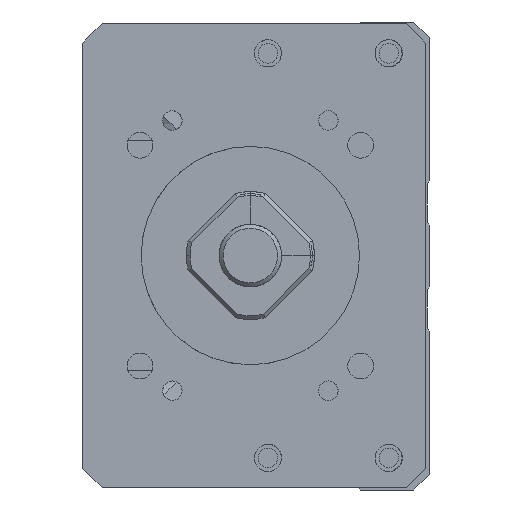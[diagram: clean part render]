
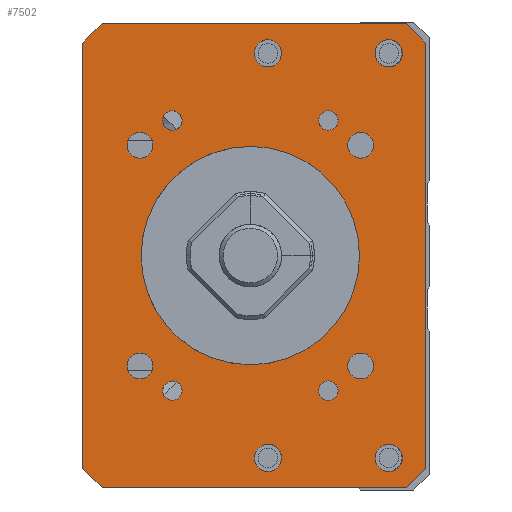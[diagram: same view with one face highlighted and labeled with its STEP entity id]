
A CAD part, left-side view. The second image highlights one B-rep face of the part: STEP entity #7502.
In plain terms, the highlighted planar face has unit normal (-1, 0, 0).
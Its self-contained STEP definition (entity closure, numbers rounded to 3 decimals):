
#4552=CIRCLE('',#14814,14.);
#4561=CIRCLE('',#14825,1.65);
#4562=CIRCLE('',#14826,1.65);
#4563=CIRCLE('',#14827,1.65);
#4564=CIRCLE('',#14828,1.65);
#4565=CIRCLE('',#14829,1.25);
#4566=CIRCLE('',#14830,1.75);
#4567=CIRCLE('',#14831,1.25);
#4568=CIRCLE('',#14832,1.75);
#4569=CIRCLE('',#14833,1.25);
#4570=CIRCLE('',#14834,1.75);
#4571=CIRCLE('',#14835,1.75);
#4572=CIRCLE('',#14836,1.25);
#5002=PLANE('',#14837);
#5893=LINE('',#19261,#6706);
#5895=LINE('',#19285,#6708);
#5896=LINE('',#19287,#6709);
#5897=LINE('',#19289,#6710);
#5898=LINE('',#19291,#6711);
#5899=LINE('',#19293,#6712);
#5900=LINE('',#19295,#6713);
#5901=LINE('',#19297,#6714);
#6706=VECTOR('',#16324,1.);
#6708=VECTOR('',#16348,1.);
#6709=VECTOR('',#16349,1.);
#6710=VECTOR('',#16350,1.);
#6711=VECTOR('',#16351,1.);
#6712=VECTOR('',#16352,1.);
#6713=VECTOR('',#16353,1.);
#6714=VECTOR('',#16354,1.);
#7502=ADVANCED_FACE('',(#8268,#8269,#8270,#8271,#8272,#8273,#8274,#8275,
#8276,#8277,#8278,#8279,#8280,#8281),#5002,.F.);
#8268=FACE_BOUND('',#8795,.T.);
#8269=FACE_BOUND('',#8796,.T.);
#8270=FACE_BOUND('',#8797,.T.);
#8271=FACE_BOUND('',#8798,.T.);
#8272=FACE_BOUND('',#8799,.T.);
#8273=FACE_BOUND('',#8800,.T.);
#8274=FACE_BOUND('',#8801,.T.);
#8275=FACE_BOUND('',#8802,.T.);
#8276=FACE_BOUND('',#8803,.T.);
#8277=FACE_BOUND('',#8804,.T.);
#8278=FACE_BOUND('',#8805,.T.);
#8279=FACE_BOUND('',#8806,.T.);
#8280=FACE_BOUND('',#8807,.T.);
#8281=FACE_BOUND('',#8808,.T.);
#8795=EDGE_LOOP('',(#10112));
#8796=EDGE_LOOP('',(#10113));
#8797=EDGE_LOOP('',(#10114));
#8798=EDGE_LOOP('',(#10115));
#8799=EDGE_LOOP('',(#10116));
#8800=EDGE_LOOP('',(#10117));
#8801=EDGE_LOOP('',(#10118));
#8802=EDGE_LOOP('',(#10119));
#8803=EDGE_LOOP('',(#10120));
#8804=EDGE_LOOP('',(#10121,#10122,#10123,#10124,#10125,#10126,#10127,#10128));
#8805=EDGE_LOOP('',(#10129));
#8806=EDGE_LOOP('',(#10130));
#8807=EDGE_LOOP('',(#10131));
#8808=EDGE_LOOP('',(#10132));
#10112=ORIENTED_EDGE('',*,*,#13447,.F.);
#10113=ORIENTED_EDGE('',*,*,#13448,.F.);
#10114=ORIENTED_EDGE('',*,*,#13449,.F.);
#10115=ORIENTED_EDGE('',*,*,#13450,.F.);
#10116=ORIENTED_EDGE('',*,*,#13451,.F.);
#10117=ORIENTED_EDGE('',*,*,#13452,.T.);
#10118=ORIENTED_EDGE('',*,*,#13453,.F.);
#10119=ORIENTED_EDGE('',*,*,#13454,.F.);
#10120=ORIENTED_EDGE('',*,*,#13455,.F.);
#10121=ORIENTED_EDGE('',*,*,#13444,.T.);
#10122=ORIENTED_EDGE('',*,*,#13456,.T.);
#10123=ORIENTED_EDGE('',*,*,#13457,.F.);
#10124=ORIENTED_EDGE('',*,*,#13458,.T.);
#10125=ORIENTED_EDGE('',*,*,#13459,.F.);
#10126=ORIENTED_EDGE('',*,*,#13460,.T.);
#10127=ORIENTED_EDGE('',*,*,#13461,.T.);
#10128=ORIENTED_EDGE('',*,*,#13462,.T.);
#10129=ORIENTED_EDGE('',*,*,#13463,.F.);
#10130=ORIENTED_EDGE('',*,*,#13464,.F.);
#10131=ORIENTED_EDGE('',*,*,#13465,.F.);
#10132=ORIENTED_EDGE('',*,*,#13424,.F.);
#12374=VERTEX_POINT('',#19184);
#12394=VERTEX_POINT('',#19260);
#12395=VERTEX_POINT('',#19262);
#12397=VERTEX_POINT('',#19268);
#12398=VERTEX_POINT('',#19270);
#12399=VERTEX_POINT('',#19272);
#12400=VERTEX_POINT('',#19274);
#12401=VERTEX_POINT('',#19276);
#12402=VERTEX_POINT('',#19278);
#12403=VERTEX_POINT('',#19280);
#12404=VERTEX_POINT('',#19282);
#12405=VERTEX_POINT('',#19284);
#12406=VERTEX_POINT('',#19286);
#12407=VERTEX_POINT('',#19288);
#12408=VERTEX_POINT('',#19290);
#12409=VERTEX_POINT('',#19292);
#12410=VERTEX_POINT('',#19294);
#12411=VERTEX_POINT('',#19296);
#12412=VERTEX_POINT('',#19299);
#12413=VERTEX_POINT('',#19301);
#12414=VERTEX_POINT('',#19303);
#13424=EDGE_CURVE('',#12374,#12374,#4552,.T.);
#13444=EDGE_CURVE('',#12395,#12394,#5893,.T.);
#13447=EDGE_CURVE('',#12397,#12397,#4561,.T.);
#13448=EDGE_CURVE('',#12398,#12398,#4562,.T.);
#13449=EDGE_CURVE('',#12399,#12399,#4563,.T.);
#13450=EDGE_CURVE('',#12400,#12400,#4564,.T.);
#13451=EDGE_CURVE('',#12401,#12401,#4565,.T.);
#13452=EDGE_CURVE('',#12402,#12402,#4566,.T.);
#13453=EDGE_CURVE('',#12403,#12403,#4567,.T.);
#13454=EDGE_CURVE('',#12404,#12404,#4568,.T.);
#13455=EDGE_CURVE('',#12405,#12405,#4569,.T.);
#13456=EDGE_CURVE('',#12394,#12406,#5895,.T.);
#13457=EDGE_CURVE('',#12407,#12406,#5896,.T.);
#13458=EDGE_CURVE('',#12407,#12408,#5897,.T.);
#13459=EDGE_CURVE('',#12409,#12408,#5898,.T.);
#13460=EDGE_CURVE('',#12409,#12410,#5899,.T.);
#13461=EDGE_CURVE('',#12410,#12411,#5900,.T.);
#13462=EDGE_CURVE('',#12411,#12395,#5901,.T.);
#13463=EDGE_CURVE('',#12412,#12412,#4570,.T.);
#13464=EDGE_CURVE('',#12413,#12413,#4571,.T.);
#13465=EDGE_CURVE('',#12414,#12414,#4572,.T.);
#14814=AXIS2_PLACEMENT_3D('',#19183,#16298,#16299);
#14825=AXIS2_PLACEMENT_3D('',#19267,#16330,#16331);
#14826=AXIS2_PLACEMENT_3D('',#19269,#16332,#16333);
#14827=AXIS2_PLACEMENT_3D('',#19271,#16334,#16335);
#14828=AXIS2_PLACEMENT_3D('',#19273,#16336,#16337);
#14829=AXIS2_PLACEMENT_3D('',#19275,#16338,#16339);
#14830=AXIS2_PLACEMENT_3D('',#19277,#16340,#16341);
#14831=AXIS2_PLACEMENT_3D('',#19279,#16342,#16343);
#14832=AXIS2_PLACEMENT_3D('',#19281,#16344,#16345);
#14833=AXIS2_PLACEMENT_3D('',#19283,#16346,#16347);
#14834=AXIS2_PLACEMENT_3D('',#19298,#16355,#16356);
#14835=AXIS2_PLACEMENT_3D('',#19300,#16357,#16358);
#14836=AXIS2_PLACEMENT_3D('',#19302,#16359,#16360);
#14837=AXIS2_PLACEMENT_3D('',#19304,#16361,#16362);
#16298=DIRECTION('',(-1.,0.,0.));
#16299=DIRECTION('',(0.,1.,0.));
#16324=DIRECTION('',(0.,0.,-1.));
#16330=DIRECTION('',(-1.,0.,0.));
#16331=DIRECTION('',(0.,0.,1.));
#16332=DIRECTION('',(-1.,0.,0.));
#16333=DIRECTION('',(0.,0.,1.));
#16334=DIRECTION('',(-1.,0.,0.));
#16335=DIRECTION('',(0.,0.,1.));
#16336=DIRECTION('',(-1.,0.,0.));
#16337=DIRECTION('',(0.,0.,1.));
#16338=DIRECTION('',(-1.,0.,0.));
#16339=DIRECTION('',(0.,1.,0.));
#16340=DIRECTION('',(1.,0.,0.));
#16341=DIRECTION('',(0.,0.,1.));
#16342=DIRECTION('',(-1.,0.,0.));
#16343=DIRECTION('',(0.,1.,0.));
#16344=DIRECTION('',(-1.,0.,0.));
#16345=DIRECTION('',(0.,0.,1.));
#16346=DIRECTION('',(-1.,0.,0.));
#16347=DIRECTION('',(0.,1.,0.));
#16348=DIRECTION('',(0.,-0.707,-0.707));
#16349=DIRECTION('',(0.,1.,0.));
#16350=DIRECTION('',(0.,-0.707,0.707));
#16351=DIRECTION('',(0.,0.,-1.));
#16352=DIRECTION('',(0.,0.707,0.707));
#16353=DIRECTION('',(0.,1.,0.));
#16354=DIRECTION('',(0.,0.707,-0.707));
#16355=DIRECTION('',(-1.,0.,0.));
#16356=DIRECTION('',(0.,0.,1.));
#16357=DIRECTION('',(-1.,0.,0.));
#16358=DIRECTION('',(0.,0.,1.));
#16359=DIRECTION('',(-1.,0.,0.));
#16360=DIRECTION('',(0.,1.,0.));
#16361=DIRECTION('',(1.,0.,0.));
#16362=DIRECTION('',(0.,-1.,0.));
#19183=CARTESIAN_POINT('',(-211.,0.,-100.));
#19184=CARTESIAN_POINT('',(-211.,14.,-100.));
#19260=CARTESIAN_POINT('',(-211.,21.499,-127.25));
#19261=CARTESIAN_POINT('',(-211.,21.499,-70.25));
#19262=CARTESIAN_POINT('',(-211.,21.499,-72.75));
#19267=CARTESIAN_POINT('',(-211.,14.142,-85.858));
#19268=CARTESIAN_POINT('',(-211.,14.142,-84.208));
#19269=CARTESIAN_POINT('',(-211.,-14.142,-85.858));
#19270=CARTESIAN_POINT('',(-211.,-14.142,-84.208));
#19271=CARTESIAN_POINT('',(-211.,14.142,-114.142));
#19272=CARTESIAN_POINT('',(-211.,14.142,-112.492));
#19273=CARTESIAN_POINT('',(-211.,-14.142,-114.142));
#19274=CARTESIAN_POINT('',(-211.,-14.142,-112.492));
#19275=CARTESIAN_POINT('',(-211.,-10.,-117.321));
#19276=CARTESIAN_POINT('',(-211.,-8.75,-117.321));
#19277=CARTESIAN_POINT('',(-211.,-2.25,-125.936));
#19278=CARTESIAN_POINT('',(-211.,-2.25,-124.186));
#19279=CARTESIAN_POINT('',(-211.,10.,-82.679));
#19280=CARTESIAN_POINT('',(-211.,11.25,-82.679));
#19281=CARTESIAN_POINT('',(-211.,-2.25,-74.064));
#19282=CARTESIAN_POINT('',(-211.,-2.25,-72.314));
#19283=CARTESIAN_POINT('',(-211.,10.,-117.321));
#19284=CARTESIAN_POINT('',(-211.,11.25,-117.321));
#19285=CARTESIAN_POINT('',(-211.,18.999,-129.75));
#19286=CARTESIAN_POINT('',(-211.,18.999,-129.75));
#19287=CARTESIAN_POINT('',(-211.,-22.501,-129.75));
#19288=CARTESIAN_POINT('',(-211.,-20.001,-129.75));
#19289=CARTESIAN_POINT('',(-211.,-22.501,-127.25));
#19290=CARTESIAN_POINT('',(-211.,-22.501,-127.25));
#19291=CARTESIAN_POINT('',(-211.,-22.501,-70.25));
#19292=CARTESIAN_POINT('',(-211.,-22.501,-72.75));
#19293=CARTESIAN_POINT('',(-211.,-22.501,-72.75));
#19294=CARTESIAN_POINT('',(-211.,-20.001,-70.25));
#19295=CARTESIAN_POINT('',(-211.,-22.501,-70.25));
#19296=CARTESIAN_POINT('',(-211.,18.999,-70.25));
#19297=CARTESIAN_POINT('',(-211.,18.999,-70.25));
#19298=CARTESIAN_POINT('',(-211.,-17.75,-74.064));
#19299=CARTESIAN_POINT('',(-211.,-17.75,-72.314));
#19300=CARTESIAN_POINT('',(-211.,-17.75,-125.936));
#19301=CARTESIAN_POINT('',(-211.,-17.75,-124.186));
#19302=CARTESIAN_POINT('',(-211.,-10.,-82.679));
#19303=CARTESIAN_POINT('',(-211.,-8.75,-82.679));
#19304=CARTESIAN_POINT('',(-211.,-22.501,-70.25));
